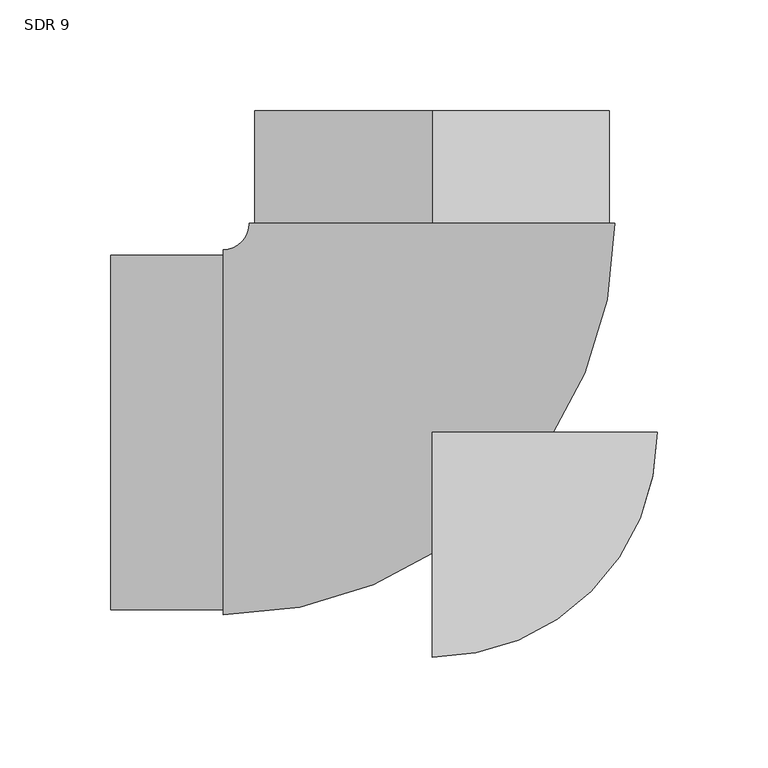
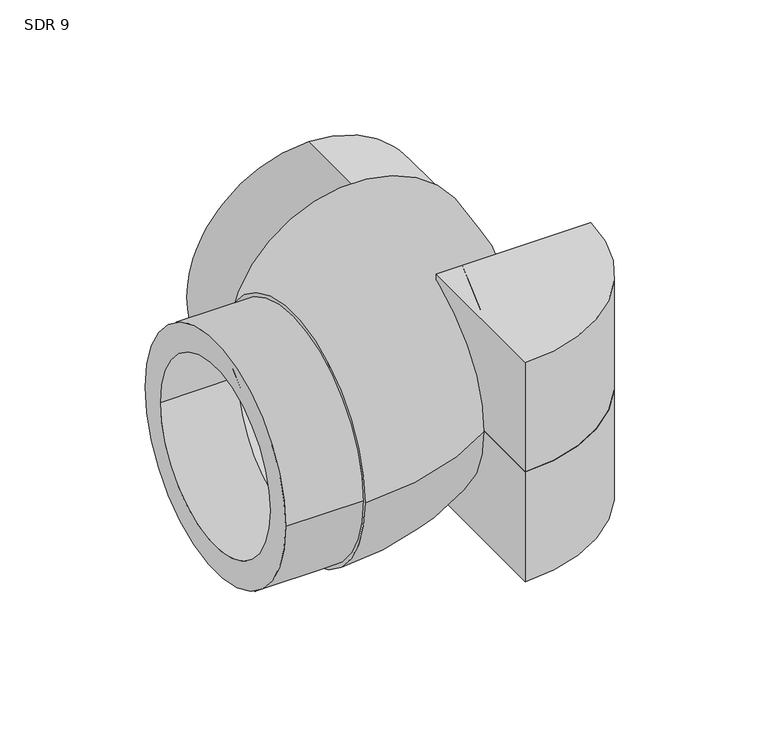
"""IFC4 building model written with IfcOpenShell, lengths in millimetres: pipe fitting geometry, Aquatherm - Elbow BW Molded : SDR 9."""

from ifc_helpers import new_model, si_unit, point, frame, frame_2d, origin, origin_with_axes, origin_2d, place, context, project, spatial, polyline, circle_curve, ellipse_curve, trimmed, segment, composite_curve, outline, extrude, source, transform, mapped, element, save
from ifc_brep_helpers import plane_surface, revolved_surface, advanced_brep


def sdr_9_47672756(model_context):
    return source(origin(), model_context, "Body", "SolidModel", [
        extrude(outline(composite_curve([segment(polyline([(0.0, -101.6), (0.0, 0.0), (101.5999995, 0.0098948)]), True, "CONTINUOUS"), segment(trimmed(circle_curve(origin_2d(), 101.6), [point((101.5999995, 0.0098948))], [point((0.0, -101.6))], False, "CARTESIAN"), True, "CONTINUOUS")], self_intersect=False)), frame((0.0, 0.0, -76.2), z_axis=(0.0, 0.0, 1.0), x_axis=(1.0, 0.0, 0.0)), (0.0, 0.0, 1.0), 76.2),
        extrude(outline(composite_curve([segment(trimmed(circle_curve(origin_2d(), 101.6), [point((101.5999995, 0.0098948))], [point((0.0, -101.6))], False, "CARTESIAN"), True, "CONTINUOUS"), segment(polyline([(0.0, -101.6), (0.0, 0.0), (101.5999995, 0.0098948)]), True, "CONTINUOUS")], self_intersect=False)), origin_with_axes(), (0.0, 0.0, 1.0), 76.2),
        extrude(outline(composite_curve([segment(trimmed(circle_curve(frame_2d((0.0, -80.01)), 80.01), [point((0.0, -160.02))], [point((0.0, 0.0))], False, "CARTESIAN"), True, "CONTINUOUS"), segment(trimmed(circle_curve(frame_2d((0.0, -80.01)), 80.01), [point((0.0, 0.0))], [point((0.0, -160.02))], False, "CARTESIAN"), True, "CONTINUOUS")], self_intersect=False), holes=[composite_curve([segment(trimmed(circle_curve(frame_2d((0.0, -80.01)), 62.23), [point((0.0, -142.24))], [point((0.0, -17.78))], True, "CARTESIAN"), True, "CONTINUOUS"), segment(trimmed(circle_curve(frame_2d((0.0, -80.01)), 62.23), [point((0.0, -17.78))], [point((0.0, -142.24))], True, "CARTESIAN"), True, "CONTINUOUS")], self_intersect=False)]), frame((-0.0091811, 94.2720996, 80.01), z_axis=(-9.738942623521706e-05, 0.9999999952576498, 0.0), x_axis=(-0.9999999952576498, -9.738942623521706e-05, 0.0)), (0.0, 0.0, 1.0), 50.7619),
        extrude(outline(composite_curve([segment(trimmed(circle_curve(frame_2d((-0.1496481, 0.0)), 80.01), [point((79.8603519, 0.0))], [point((-80.1596481, 0.0))], False, "CARTESIAN"), True, "CONTINUOUS"), segment(trimmed(circle_curve(frame_2d((-0.1496481, 0.0)), 80.01), [point((-80.1596481, 0.0))], [point((79.8603519, 0.0))], False, "CARTESIAN"), True, "CONTINUOUS")], self_intersect=False), holes=[composite_curve([segment(trimmed(circle_curve(origin_2d(), 62.23), [point((62.23, 0.0))], [point((-62.23, 0.0))], True, "CARTESIAN"), True, "CONTINUOUS"), segment(trimmed(circle_curve(origin_2d(), 62.23), [point((-62.23, 0.0))], [point((62.23, 0.0))], True, "CARTESIAN"), True, "CONTINUOUS")], self_intersect=False)]), frame((-145.034, 0.0, 0.0), z_axis=(1.0, 0.0, 0.0), x_axis=(0.0, 1.0, 0.0)), (0.0, 0.0, 1.0), 50.7619),
        advanced_brep(
        [(-94.2721, -82.4103, 0.0), (-94.2721, 82.4103, 0.0), (-94.2721, -62.23, 0.0), (-94.2721, 62.23, 0.0), (82.4011185, 94.2801254, 0.0), (-82.4194807, 94.2640737, 0.0), (62.2208186, 94.2781601, 0.0), (-62.2391808, 94.266039, 0.0)],
        [
            (0, 1, circle_curve(frame((-94.2721, 0.0, 0.0), z_axis=(-1.0, 0.0, 0.0), x_axis=(0.0, 1.0, 0.0)), 82.4103)),
            (1, 0, circle_curve(frame((-94.2721, 0.0, 0.0), z_axis=(-1.0, 0.0, 0.0), x_axis=(0.0, 1.0, 0.0)), 82.4103)),
            (2, 3, circle_curve(frame((-94.2721, 0.0, 0.0), z_axis=(1.0, 0.0, 0.0), x_axis=(0.0, 1.0, 0.0)), 62.23)),
            (3, 2, circle_curve(frame((-94.2721, 0.0, 0.0), z_axis=(1.0, 0.0, 0.0), x_axis=(0.0, 1.0, 0.0)), 62.23)),
            (4, 5, circle_curve(frame((-0.0091811, 94.2720996, 0.0), z_axis=(-9.738942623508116e-05, 0.9999999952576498, 0.0), x_axis=(-0.9999999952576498, -9.738942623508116e-05, 0.0)), 82.4103)),
            (5, 4, circle_curve(frame((-0.0091811, 94.2720996, 0.0), z_axis=(-9.738942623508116e-05, 0.9999999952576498, 0.0), x_axis=(-0.9999999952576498, -9.738942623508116e-05, 0.0)), 82.4103)),
            (6, 7, circle_curve(frame((-0.0091811, 94.2720996, 0.0), z_axis=(9.738942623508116e-05, -0.9999999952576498, 0.0), x_axis=(-0.9999999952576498, -9.738942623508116e-05, 0.0)), 62.23)),
            (7, 6, circle_curve(frame((-0.0091811, 94.2720996, 0.0), z_axis=(9.738942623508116e-05, -0.9999999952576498, 0.0), x_axis=(-0.9999999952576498, -9.738942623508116e-05, 0.0)), 62.23)),
            (5, 1, circle_curve(frame((-94.2721, 94.2629193, 0.0), z_axis=(0.0, 0.0, -1.0), x_axis=(0.0, -1.0, 0.0)), 11.8526193)),
            (0, 4, circle_curve(frame((-94.2721, 94.2629193, 0.0), z_axis=(0.0, 0.0, 1.0), x_axis=(0.0, -1.0, 0.0)), 176.6732193)),
            (7, 3, circle_curve(frame((-94.2721, 94.2629193, 0.0), z_axis=(0.0, 0.0, -1.0), x_axis=(0.0, -1.0, 0.0)), 32.0329193)),
            (2, 6, circle_curve(frame((-94.2721, 94.2629193, 0.0), z_axis=(0.0, 0.0, 1.0), x_axis=(0.0, -1.0, 0.0)), 156.4929193)),
        ],
        [
            plane_surface(frame((-94.2721, 0.0, 0.0), z_axis=(-1.0, 0.0, 0.0), x_axis=(0.0, 0.0, 1.0))),
            plane_surface(frame((-0.0091811, 94.2720996, 0.0), z_axis=(-9.738942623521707e-05, 0.9999999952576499, 0.0), x_axis=(0.0, 0.0, 1.0))),
            revolved_surface(trimmed(ellipse_curve(frame((-94.2721, 0.0, 0.0), z_axis=(-1.0, 0.0, 0.0), x_axis=(0.0, 1.0, 0.0)), 82.4103, 82.4103), [point((-94.2721, -82.4103, 0.0))], [point((-94.2721, 82.4103, 0.0))], True, "CARTESIAN"), (-94.2721, 94.2629193, 0.0), (0.0, 0.0, 1.0)),
            revolved_surface(trimmed(ellipse_curve(frame((-94.2721, 0.0, 0.0), z_axis=(-1.0, 0.0, 0.0), x_axis=(0.0, 1.0, 0.0)), 82.4103, 82.4103), [point((-94.2721, 82.4103, 0.0))], [point((-94.2721, -82.4103, 0.0))], True, "CARTESIAN"), (-94.2721, 94.2629193, 0.0), (0.0, 0.0, 1.0)),
            revolved_surface(trimmed(ellipse_curve(frame((-94.2721, 0.0, 0.0), z_axis=(1.0, 0.0, 0.0), x_axis=(0.0, 1.0, 0.0)), 62.23, 62.23), [point((-94.2721, -62.23, 0.0))], [point((-94.2721, 62.23, 0.0))], True, "CARTESIAN"), (-94.2721, 94.2629193, 0.0), (0.0, 0.0, 1.0)),
            revolved_surface(trimmed(ellipse_curve(frame((-94.2721, 0.0, 0.0), z_axis=(1.0, 0.0, 0.0), x_axis=(0.0, 1.0, 0.0)), 62.23, 62.23), [point((-94.2721, 62.23, 0.0))], [point((-94.2721, -62.23, 0.0))], True, "CARTESIAN"), (-94.2721, 94.2629193, 0.0), (0.0, 0.0, 1.0)),
        ],
        [
            (0, [[1, 2], [3, 4]]),
            (1, [[5, 6], [7, 8]]),
            (2, [[9, -1, 10, -6]]),
            (3, [[-10, -2, -9, -5]]),
            (4, [[11, -3, 12, -8]]),
            (5, [[-12, -4, -11, -7]]),
        ],
    ),
    ])


if __name__ == "__main__":
    model = new_model("IFC4")
    model_context = context("Model", 3, world=origin())
    ifc_project = project(units=[si_unit("LENGTHUNIT", "METRE", prefix="MILLI")], contexts=[model_context])
    site = spatial("IfcSite", under=ifc_project)
    building = spatial("IfcBuilding", under=site)
    placement = place(None, origin())
    sdr_9_shape = sdr_9_47672756(model_context)
    element("IfcPipeFitting", 1, ObjectType="Aquatherm - Elbow BW Molded : SDR 9", at=placement, inside=building, context=model_context, shape_type="MappedRepresentation", body=[
        mapped(sdr_9_shape, transform((0.0, 0.0, 0.0), x_axis=(1.0, 0.0, 0.0), y_axis=(0.0, 1.0, 0.0), z_axis=(0.0, 0.0, 1.0))),
    ])
    save(model, "model.ifc")
